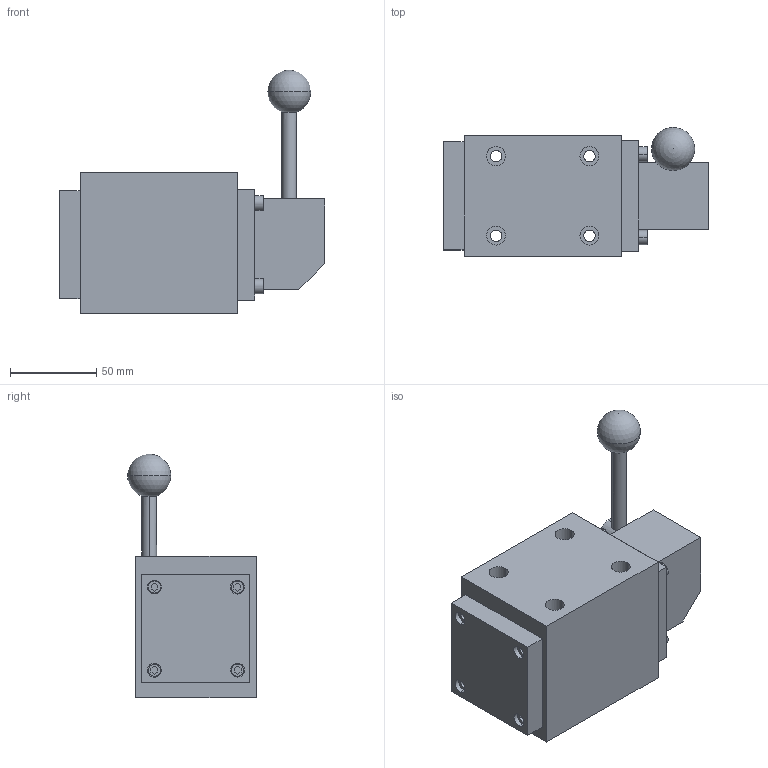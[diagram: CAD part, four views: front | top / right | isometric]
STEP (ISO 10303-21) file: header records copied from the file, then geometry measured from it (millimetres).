
FILE_DESCRIPTION (( 'STEP AP203' ), '1' );
FILE_NAME ('FS-03粟銅葩弇忒雄概.STEP', '2020-11-12T04:49:16', ( 'chen' ), ( '' ), 'SwSTEP 2.0', 'SolidWorks 2018', '' );
FILE_SCHEMA (( 'CONFIG_CONTROL_DESIGN' ));
Length unit declared in the file: millimetre
Products named in the file (1): FS-03粟銅葩弇忒雄概
Bounding box: 153.5 x 74.5 x 141 mm (x, y, z)
Volume: 678377.6 mm3; surface area: 67483.7 mm2
Topology: 1 solids, 1 shells, 172 faces, 398 edges, 266 vertices
Faces by surface type: plane 106, cylinder 64, sphere 2
Entity records: 5039 total; most frequent: CARTESIAN_POINT 905, DIRECTION 866, ORIENTED_EDGE 788, EDGE_CURVE 394, AXIS2_PLACEMENT_3D 303, VERTEX_POINT 264, VECTOR 260, LINE 260
